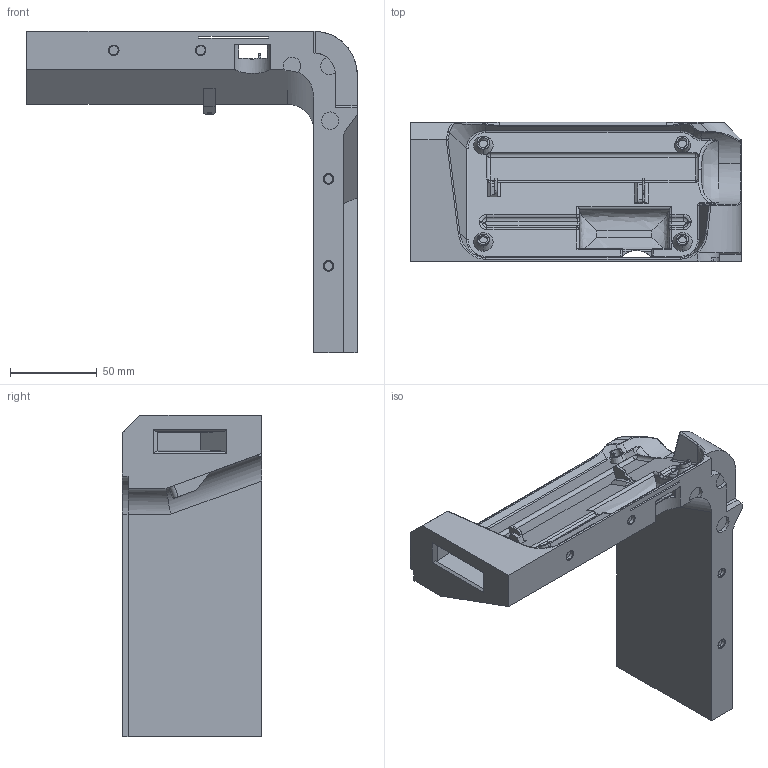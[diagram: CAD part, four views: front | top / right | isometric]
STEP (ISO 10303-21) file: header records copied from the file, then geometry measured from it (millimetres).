
FILE_DESCRIPTION (( 'STEP AP203' ), '1' );
FILE_NAME ('Ôö¸ß¼Ü-A.STEP', '2024-01-02T07:25:03', ( '' ), ( '' ), 'SwSTEP 2.0', 'SolidWorks 2014', '' );
FILE_SCHEMA (( 'CONFIG_CONTROL_DESIGN' ));
Length unit declared in the file: millimetre
Products named in the file (1): 崝詢殤-A
Bounding box: 190 x 80 x 184.95 mm (x, y, z)
Volume: 489855.8 mm3; surface area: 79772.3 mm2
Topology: 1 solids, 1 shells, 329 faces, 843 edges, 522 vertices
Faces by surface type: plane 132, cylinder 107, bspline 71, cone 19
Entity records: 16729 total; most frequent: CARTESIAN_POINT 9617, ORIENTED_EDGE 1676, DIRECTION 1139, EDGE_CURVE 838, VERTEX_POINT 522, LINE 393, VECTOR 393, AXIS2_PLACEMENT_3D 373
